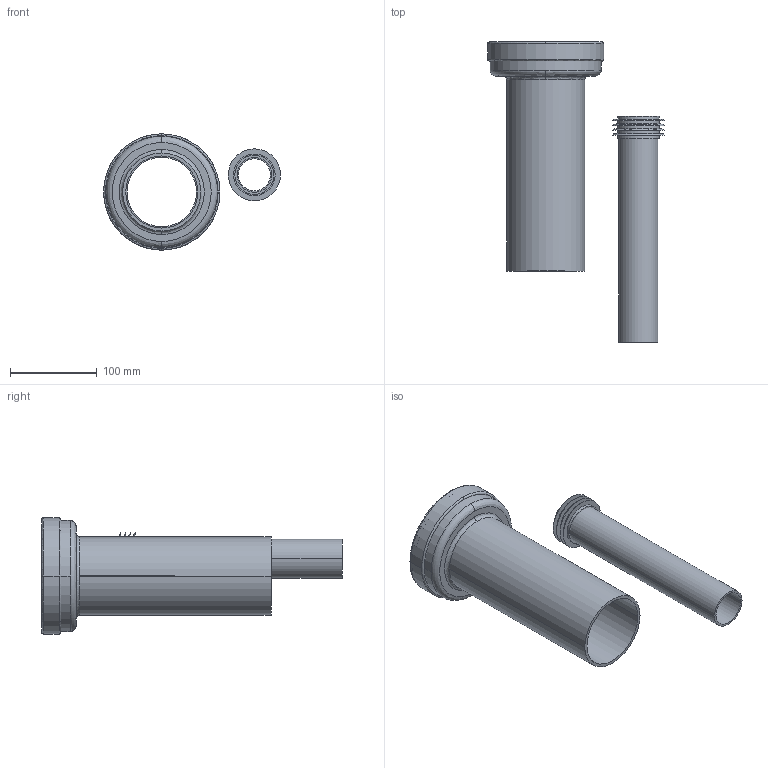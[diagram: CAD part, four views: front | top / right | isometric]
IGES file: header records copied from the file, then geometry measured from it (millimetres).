
Start section: Data from XPlus IGES,  Spatial Corp. Copyright (c) 1999-2004
Global section: file name: 152438.igs; native system:  By Spatial Corp.; preprocessor: XPlus ACIS/IGES 3.0; author: Noname; organization: Noname; date: 20210802.114314; units: millimetre
Bounding box: 203.7 x 345.93 x 134 mm (x, y, z)
Surface area: 292581.8 mm2 (no closed solid volume)
Topology: 0 solids, 0 shells, 177 faces, 822 edges, 822 vertices
Faces by surface type: revolution 154, extrusion 23
